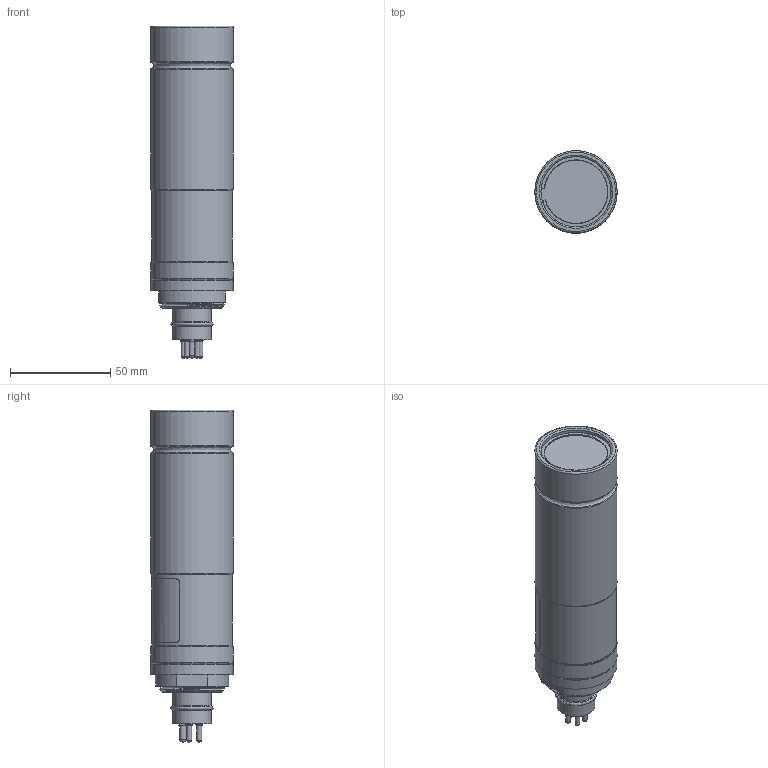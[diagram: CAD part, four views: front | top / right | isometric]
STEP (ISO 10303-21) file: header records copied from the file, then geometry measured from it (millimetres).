
FILE_DESCRIPTION (( 'STEP AP203' ), '1' );
FILE_NAME ('UWC-325P_Website.STEP', '2023-08-03T20:09:31', ( '' ), ( '' ), 'SwSTEP 2.0', 'SolidWorks 2020', '' );
FILE_SCHEMA (( 'CONFIG_CONTROL_DESIGN' ));
Length unit declared in the file: inch
Products named in the file (1): UWC-325P_Website
Bounding box: 41.15 x 41.15 x 165.99 mm (x, y, z)
Volume: 184164 mm3; surface area: 22933.5 mm2
Topology: 1 solids, 1 shells, 88 faces, 206 edges, 131 vertices
Faces by surface type: cylinder 31, bspline 24, plane 23, cone 10
Full cylindrical faces by diameter (mm): 2.337 x4, 3.175 x1, 3.251 x4, 4.064 x1, 19.05 x2, 35.052 x1, 36.322 x1, 40.386 x1, 41.021 x1, 41.148 x3
Entity records: 3552 total; most frequent: CARTESIAN_POINT 1931, DIRECTION 290, ORIENTED_EDGE 276, EDGE_LOOP 147, EDGE_CURVE 138, AXIS2_PLACEMENT_3D 134, FACE_OUTER_BOUND 125, VERTEX_POINT 109
